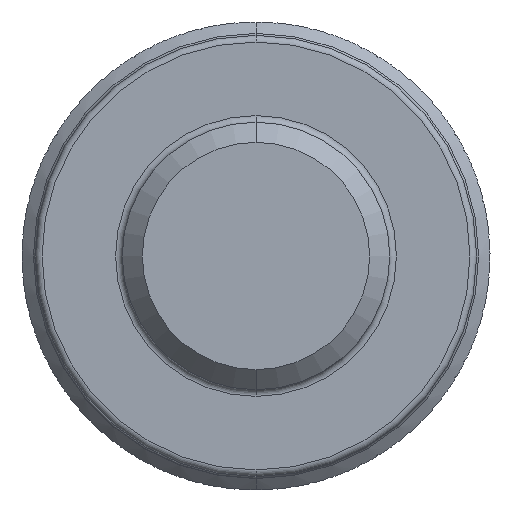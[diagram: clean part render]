
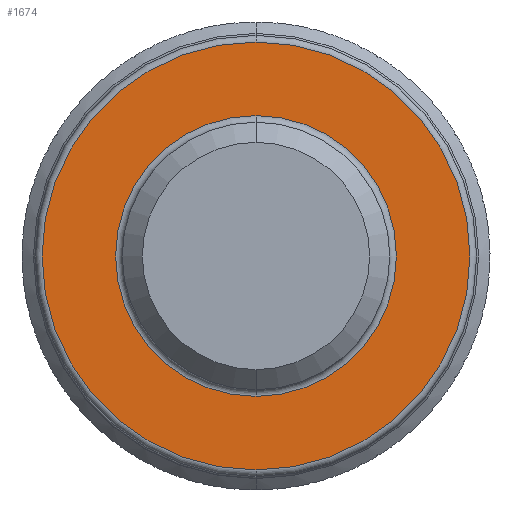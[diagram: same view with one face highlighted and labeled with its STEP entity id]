
A CAD part, front view. The second image highlights one B-rep face of the part: STEP entity #1674.
In plain terms, the highlighted planar face has unit normal (0, -1, 0).
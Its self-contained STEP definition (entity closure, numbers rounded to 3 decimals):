
#144 = VERTEX_POINT ( 'NONE', #4465 ) ;
#283 = AXIS2_PLACEMENT_3D ( 'NONE', #4992, #2651, #8131 ) ;
#596 = FACE_OUTER_BOUND ( 'NONE', #7383, .T. ) ;
#713 = EDGE_CURVE ( 'NONE', #9789, #9942, #9495, .T. ) ;
#890 = CIRCLE ( 'NONE', #8318, 2.1 ) ;
#1253 = FACE_BOUND ( 'NONE', #8991, .T. ) ;
#1358 = DIRECTION ( 'NONE',  ( 0., 1., 0. ) ) ;
#1421 = DIRECTION ( 'NONE',  ( 0., 0., -1. ) ) ;
#1542 = DIRECTION ( 'NONE',  ( 0., -1., 0. ) ) ;
#1674 = ADVANCED_FACE ( 'NONE', ( #1253, #596 ), #4361, .T. ) ;
#1906 = ORIENTED_EDGE ( 'NONE', *, *, #4848, .T. ) ;
#2028 = AXIS2_PLACEMENT_3D ( 'NONE', #8269, #1542, #4483 ) ;
#2651 = DIRECTION ( 'NONE',  ( 0., -1., 0. ) ) ;
#2755 = ORIENTED_EDGE ( 'NONE', *, *, #6757, .T. ) ;
#2769 = CARTESIAN_POINT ( 'NONE',  ( 2., -4., 0. ) ) ;
#2926 = EDGE_CURVE ( 'NONE', #144, #8737, #890, .T. ) ;
#2977 = ORIENTED_EDGE ( 'NONE', *, *, #713, .T. ) ;
#4036 = AXIS2_PLACEMENT_3D ( 'NONE', #2769, #8995, #6826 ) ;
#4157 = CARTESIAN_POINT ( 'NONE',  ( 0., -4., -3.2 ) ) ;
#4361 = PLANE ( 'NONE',  #4036 ) ;
#4465 = CARTESIAN_POINT ( 'NONE',  ( 0., -4., 2.1 ) ) ;
#4483 = DIRECTION ( 'NONE',  ( 0., 0., -1. ) ) ;
#4820 = DIRECTION ( 'NONE',  ( 0., 1., 0. ) ) ;
#4848 = EDGE_CURVE ( 'NONE', #9942, #9789, #6412, .T. ) ;
#4992 = CARTESIAN_POINT ( 'NONE',  ( 0., -4., 0. ) ) ;
#5111 = CARTESIAN_POINT ( 'NONE',  ( 0., -4., 0. ) ) ;
#5599 = AXIS2_PLACEMENT_3D ( 'NONE', #5111, #1358, #1421 ) ;
#6322 = CARTESIAN_POINT ( 'NONE',  ( 0., -4., 0. ) ) ;
#6412 = CIRCLE ( 'NONE', #2028, 3.2 ) ;
#6757 = EDGE_CURVE ( 'NONE', #8737, #144, #8972, .T. ) ;
#6826 = DIRECTION ( 'NONE',  ( 0., 0., -1. ) ) ;
#7383 = EDGE_LOOP ( 'NONE', ( #2977, #1906 ) ) ;
#8131 = DIRECTION ( 'NONE',  ( 0., 0., -1. ) ) ;
#8269 = CARTESIAN_POINT ( 'NONE',  ( 0., -4., 0. ) ) ;
#8318 = AXIS2_PLACEMENT_3D ( 'NONE', #6322, #4820, #9973 ) ;
#8438 = CARTESIAN_POINT ( 'NONE',  ( 0., -4., -2.1 ) ) ;
#8737 = VERTEX_POINT ( 'NONE', #8438 ) ;
#8933 = CARTESIAN_POINT ( 'NONE',  ( 0., -4., 3.2 ) ) ;
#8934 = ORIENTED_EDGE ( 'NONE', *, *, #2926, .T. ) ;
#8972 = CIRCLE ( 'NONE', #5599, 2.1 ) ;
#8991 = EDGE_LOOP ( 'NONE', ( #2755, #8934 ) ) ;
#8995 = DIRECTION ( 'NONE',  ( 0., -1., 0. ) ) ;
#9495 = CIRCLE ( 'NONE', #283, 3.2 ) ;
#9789 = VERTEX_POINT ( 'NONE', #4157 ) ;
#9942 = VERTEX_POINT ( 'NONE', #8933 ) ;
#9973 = DIRECTION ( 'NONE',  ( 0., 0., -1. ) ) ;
